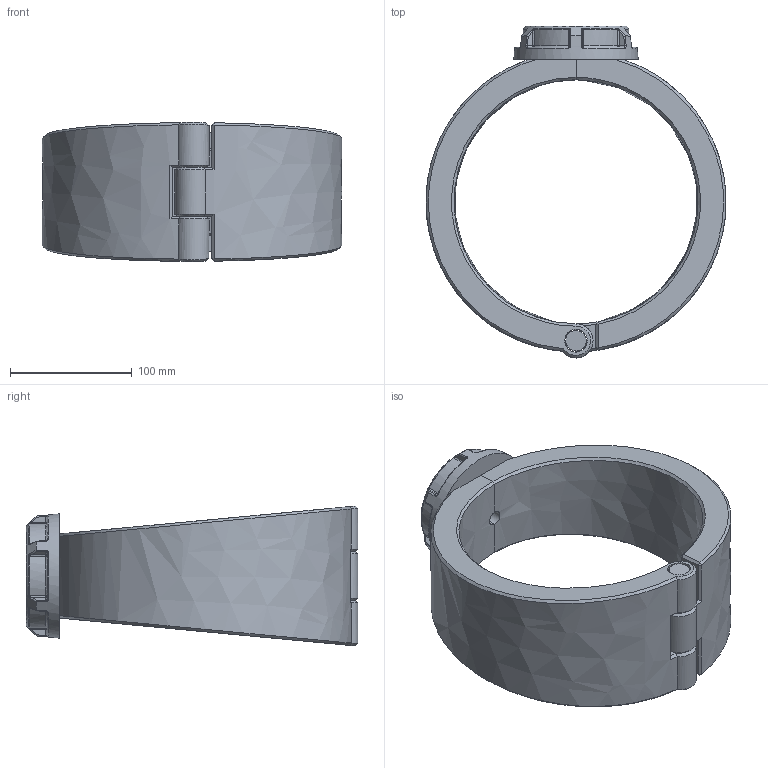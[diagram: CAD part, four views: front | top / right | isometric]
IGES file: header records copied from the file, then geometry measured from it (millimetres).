
Global section: file name: 163000200007; native system: Autodesk Inventor 2019; preprocessor: unknown; author: comp2; date: 20240828.103147; units: millimetre
Bounding box: 245.89 x 272 x 114.62 mm (x, y, z)
Volume: 1600156.9 mm3; surface area: 201396.5 mm2
Topology: 4 solids, 4 shells, 203 faces, 486 edges, 293 vertices
Faces by surface type: bspline 203
